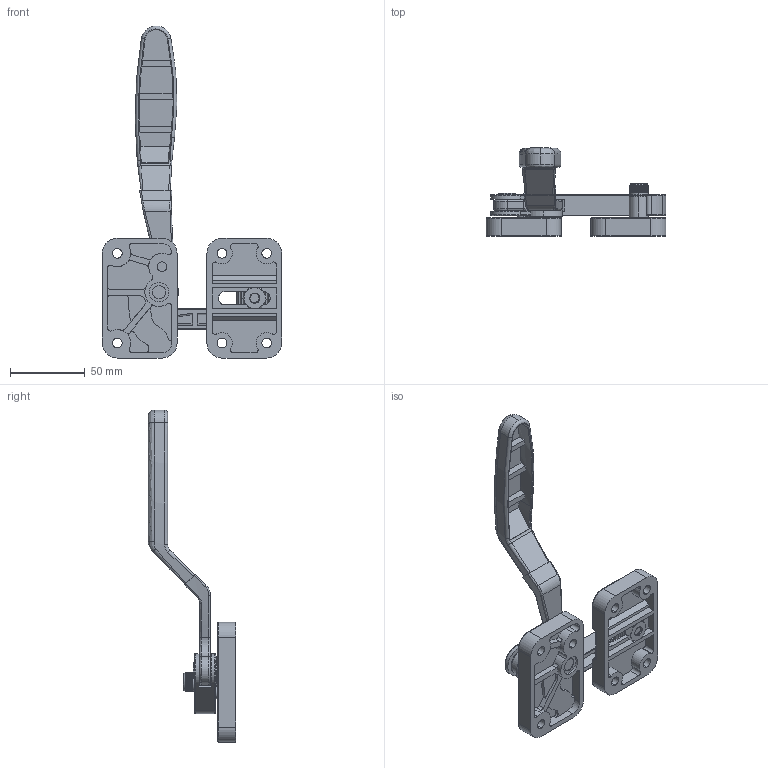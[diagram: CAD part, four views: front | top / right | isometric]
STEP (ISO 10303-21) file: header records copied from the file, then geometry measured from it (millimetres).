
FILE_DESCRIPTION (( 'STEP AP203' ), '1' );
FILE_NAME ('SK1-501LÐÂ.STEP', '2026-08-17T07:43:13', ( '' ), ( '' ), 'SwSTEP 2.0', 'SolidWorks 2019', '' );
FILE_SCHEMA (( 'CONFIG_CONTROL_DESIGN' ));
Length unit declared in the file: millimetre
Products named in the file (11): SK1-501參忒菜え; SK1-501釱赽衵蜇璃; SK1-501L陔; SK1-501釱赽酘; SK1-501釱赽衵; SK1-501參忒; SK1-501像; SK1-501釱赽酘种隊; SK1-501像 种隊2; M8 1.25鼠備酗僅5; SK1-501釱赽衵 蹟隊
Assembly tree (10 placements, depth 2):
  SK1-501L陔
    SK1-501釱赽酘
    SK1-501參忒
    SK1-501像
    SK1-501釱赽衵 蹟隊
    SK1-501釱赽衵
    SK1-501釱赽衵蜇璃
    SK1-501釱赽酘种隊
    M8 1.25鼠備酗僅5
    SK1-501參忒菜え
    SK1-501像 种隊2
Bounding box: 120 x 58.5 x 222 mm (x, y, z)
Volume: 110702.5 mm3; surface area: 63706 mm2
Topology: 10 solids, 10 shells, 1259 faces, 3501 edges, 2285 vertices
Faces by surface type: plane 667, cylinder 354, bspline 219, cone 19
Entity records: 49018 total; most frequent: CARTESIAN_POINT 16700, ORIENTED_EDGE 6982, DIRECTION 6083, EDGE_CURVE 3491, VERTEX_POINT 2285, AXIS2_PLACEMENT_3D 2070, LINE 1943, VECTOR 1943
